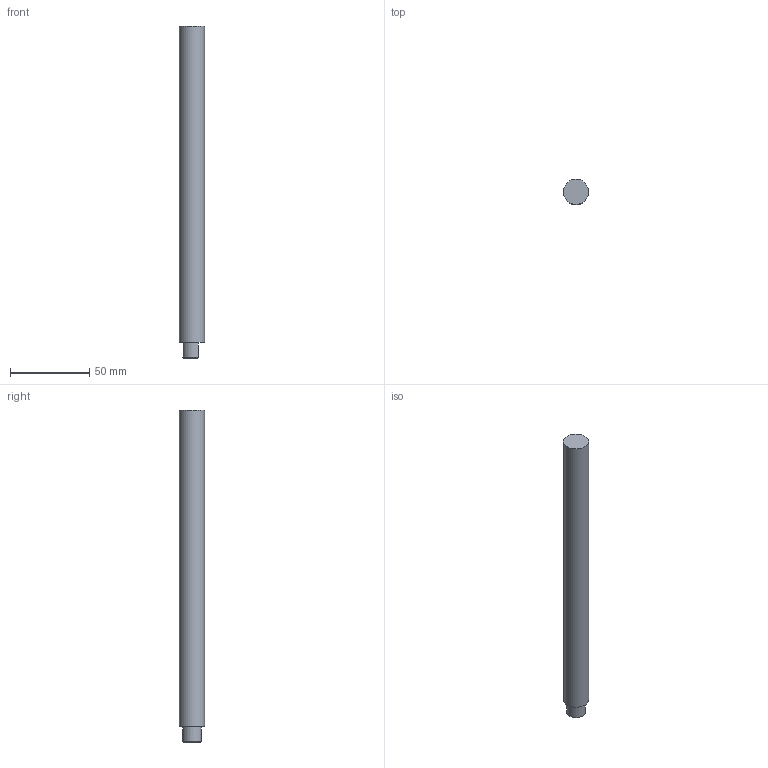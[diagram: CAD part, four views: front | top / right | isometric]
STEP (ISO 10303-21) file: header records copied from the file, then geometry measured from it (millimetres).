
FILE_DESCRIPTION (( 'STEP AP214' ), '1' );
FILE_NAME ('KKPHF Pin C_-_12-200.step', '2024-02-07T08:52:37', ( '' ), ( '' ), 'SwSTEP 2.0', 'SolidWorks 2020', '' );
FILE_SCHEMA (( 'AUTOMOTIVE_DESIGN' ));
Length unit declared in the file: millimetre
Products named in the file (1): KKPHF  Pin C_-_12-200
Bounding box: 16 x 16 x 209.9 mm (x, y, z)
Volume: 40907.8 mm3; surface area: 11034 mm2
Topology: 1 solids, 1 shells, 12 faces, 22 edges, 13 vertices
Faces by surface type: plane 5, cylinder 4, cone 2, torus 1
Full cylindrical faces by diameter (mm): 5 x1, 16 x1
Entity records: 323 total; most frequent: CARTESIAN_POINT 59, DIRECTION 48, ORIENTED_EDGE 36, AXIS2_PLACEMENT_3D 21, EDGE_CURVE 18, EDGE_LOOP 16, FACE_OUTER_BOUND 14, VERTEX_POINT 12
